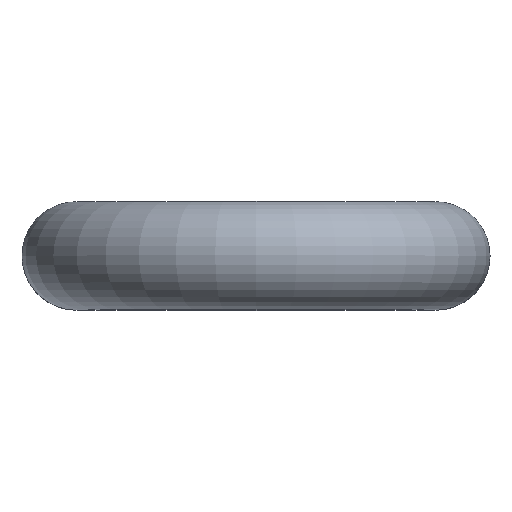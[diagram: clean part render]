
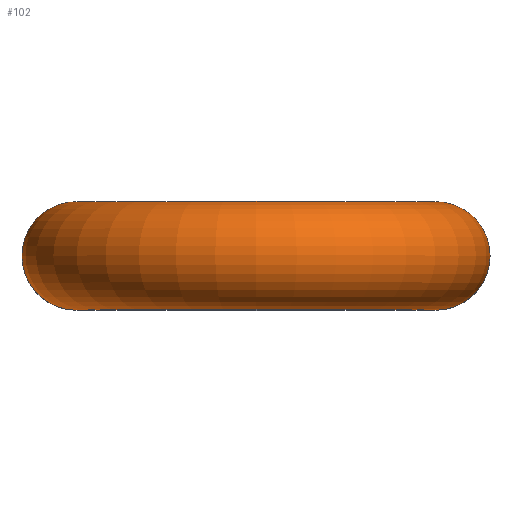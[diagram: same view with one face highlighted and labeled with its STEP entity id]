
A CAD part, top view. The second image highlights one B-rep face of the part: STEP entity #102.
In plain terms, the highlighted toroidal (fillet/blend) face has major radius 15.76 mm and minor radius 4.725 mm.
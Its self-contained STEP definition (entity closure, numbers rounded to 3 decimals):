
#24 = VERTEX_POINT('',#25);
#25 = CARTESIAN_POINT('',(-8.728,0.,571.));
#32 = CYLINDRICAL_SURFACE('',#33,4.725);
#33 = AXIS2_PLACEMENT_3D('',#34,#35,#36);
#34 = CARTESIAN_POINT('',(-13.453,0.,549.));
#35 = DIRECTION('',(0.,0.,1.));
#36 = DIRECTION('',(1.,0.,-0.));
#50 = EDGE_CURVE('',#24,#24,#51,.T.);
#51 = SURFACE_CURVE('',#52,(#57,#64),.PCURVE_S1.);
#52 = CIRCLE('',#53,4.725);
#53 = AXIS2_PLACEMENT_3D('',#54,#55,#56);
#54 = CARTESIAN_POINT('',(-13.453,0.,571.));
#55 = DIRECTION('',(0.,0.,1.));
#56 = DIRECTION('',(1.,0.,-0.));
#57 = PCURVE('',#32,#58);
#58 = DEFINITIONAL_REPRESENTATION('',(#59),#63);
#59 = LINE('',#60,#61);
#60 = CARTESIAN_POINT('',(0.,22.));
#61 = VECTOR('',#62,1.);
#62 = DIRECTION('',(1.,0.));
#63 = ( GEOMETRIC_REPRESENTATION_CONTEXT(2) 
PARAMETRIC_REPRESENTATION_CONTEXT() REPRESENTATION_CONTEXT('2D SPACE',''
  ) );
#64 = PCURVE('',#65,#70);
#65 = TOROIDAL_SURFACE('',#66,15.76,4.725);
#66 = AXIS2_PLACEMENT_3D('',#67,#68,#69);
#67 = CARTESIAN_POINT('',(2.307,0.,571.));
#68 = DIRECTION('',(0.,1.,-0.));
#69 = DIRECTION('',(-1.,0.,0.));
#70 = DEFINITIONAL_REPRESENTATION('',(#71),#74);
#71 = B_SPLINE_CURVE_WITH_KNOTS('',1,(#72,#73),.UNSPECIFIED.,.F.,.F.,(2,
    2),(0.,6.283),.PIECEWISE_BEZIER_KNOTS.);
#72 = CARTESIAN_POINT('',(0.,9.425));
#73 = CARTESIAN_POINT('',(0.,3.142));
#74 = ( GEOMETRIC_REPRESENTATION_CONTEXT(2) 
PARAMETRIC_REPRESENTATION_CONTEXT() REPRESENTATION_CONTEXT('2D SPACE',''
  ) );
#102 = ADVANCED_FACE('',(#103),#65,.T.);
#103 = FACE_BOUND('',#104,.T.);
#104 = EDGE_LOOP('',(#105,#128,#154,#155));
#105 = ORIENTED_EDGE('',*,*,#106,.T.);
#106 = EDGE_CURVE('',#24,#107,#109,.T.);
#107 = VERTEX_POINT('',#108);
#108 = CARTESIAN_POINT('',(13.342,0.,571.));
#109 = SEAM_CURVE('',#110,(#115,#121),.PCURVE_S1.);
#110 = CIRCLE('',#111,11.035);
#111 = AXIS2_PLACEMENT_3D('',#112,#113,#114);
#112 = CARTESIAN_POINT('',(2.307,0.,571.));
#113 = DIRECTION('',(0.,1.,-0.));
#114 = DIRECTION('',(-1.,0.,0.));
#115 = PCURVE('',#65,#116);
#116 = DEFINITIONAL_REPRESENTATION('',(#117),#120);
#117 = B_SPLINE_CURVE_WITH_KNOTS('',1,(#118,#119),.UNSPECIFIED.,.F.,.F.,
  (2,2),(0.,3.142),.PIECEWISE_BEZIER_KNOTS.);
#118 = CARTESIAN_POINT('',(0.,3.142));
#119 = CARTESIAN_POINT('',(3.142,3.142));
#120 = ( GEOMETRIC_REPRESENTATION_CONTEXT(2) 
PARAMETRIC_REPRESENTATION_CONTEXT() REPRESENTATION_CONTEXT('2D SPACE',''
  ) );
#121 = PCURVE('',#65,#122);
#122 = DEFINITIONAL_REPRESENTATION('',(#123),#127);
#123 = LINE('',#124,#125);
#124 = CARTESIAN_POINT('',(0.,9.425));
#125 = VECTOR('',#126,1.);
#126 = DIRECTION('',(1.,0.));
#127 = ( GEOMETRIC_REPRESENTATION_CONTEXT(2) 
PARAMETRIC_REPRESENTATION_CONTEXT() REPRESENTATION_CONTEXT('2D SPACE',''
  ) );
#128 = ORIENTED_EDGE('',*,*,#129,.T.);
#129 = EDGE_CURVE('',#107,#107,#130,.T.);
#130 = SURFACE_CURVE('',#131,(#136,#143),.PCURVE_S1.);
#131 = CIRCLE('',#132,4.725);
#132 = AXIS2_PLACEMENT_3D('',#133,#134,#135);
#133 = CARTESIAN_POINT('',(18.067,0.,571.));
#134 = DIRECTION('',(0.,0.,1.));
#135 = DIRECTION('',(1.,0.,0.));
#136 = PCURVE('',#65,#137);
#137 = DEFINITIONAL_REPRESENTATION('',(#138),#142);
#138 = LINE('',#139,#140);
#139 = CARTESIAN_POINT('',(3.142,0.));
#140 = VECTOR('',#141,1.);
#141 = DIRECTION('',(0.,1.));
#142 = ( GEOMETRIC_REPRESENTATION_CONTEXT(2) 
PARAMETRIC_REPRESENTATION_CONTEXT() REPRESENTATION_CONTEXT('2D SPACE',''
  ) );
#143 = PCURVE('',#144,#149);
#144 = CYLINDRICAL_SURFACE('',#145,4.725);
#145 = AXIS2_PLACEMENT_3D('',#146,#147,#148);
#146 = CARTESIAN_POINT('',(18.067,0.,571.));
#147 = DIRECTION('',(0.,0.,-1.));
#148 = DIRECTION('',(-1.,0.,0.));
#149 = DEFINITIONAL_REPRESENTATION('',(#150),#153);
#150 = B_SPLINE_CURVE_WITH_KNOTS('',1,(#151,#152),.UNSPECIFIED.,.F.,.F.,
  (2,2),(3.142,9.425),.PIECEWISE_BEZIER_KNOTS.);
#151 = CARTESIAN_POINT('',(6.283,0.));
#152 = CARTESIAN_POINT('',(0.,0.));
#153 = ( GEOMETRIC_REPRESENTATION_CONTEXT(2) 
PARAMETRIC_REPRESENTATION_CONTEXT() REPRESENTATION_CONTEXT('2D SPACE',''
  ) );
#154 = ORIENTED_EDGE('',*,*,#106,.F.);
#155 = ORIENTED_EDGE('',*,*,#50,.T.);
